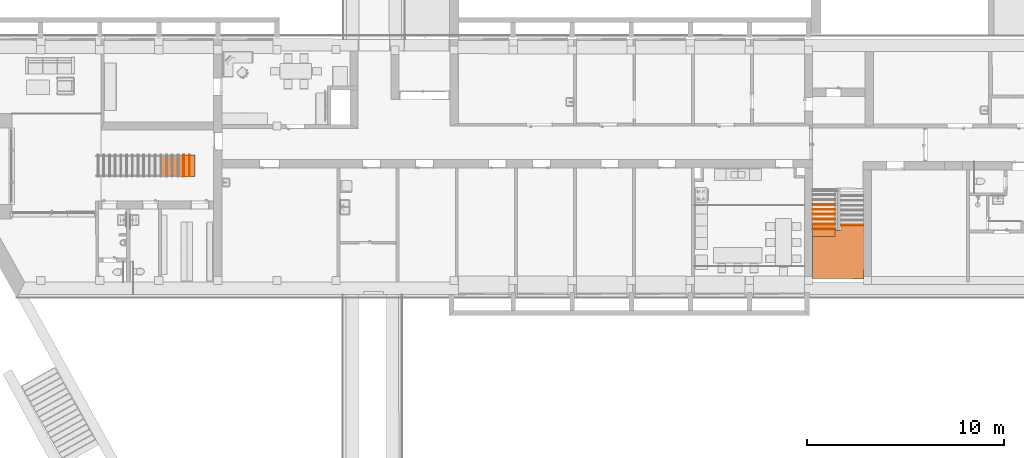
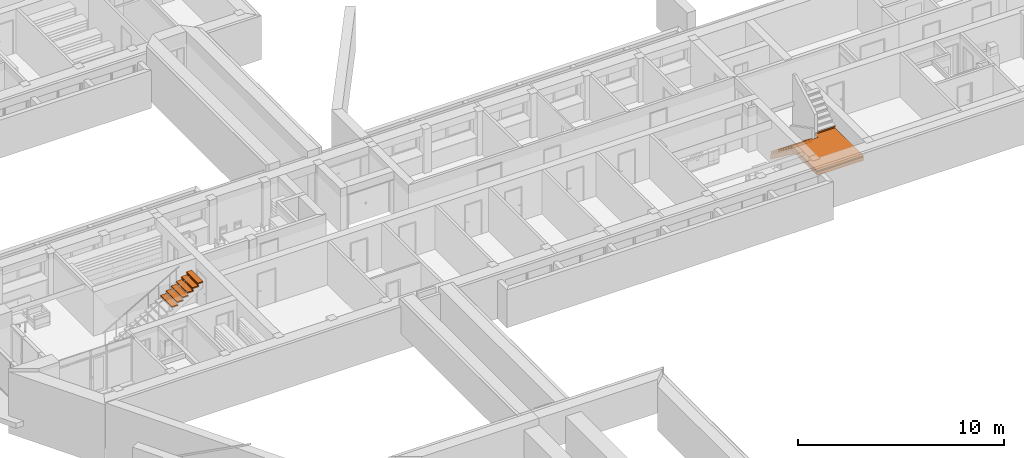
# One storey, part 120 of 127: 19 proxies, 2 elements without a shape of their own.
"""IFC2X3 building model written with IfcOpenShell, lengths in millimetres."""

from ifc_helpers import new_model, entity, si_unit, converted_unit, derived_unit, money_unit, direction, frame, origin_with_axes, place, context, subcontext, project, spatial, faceted_brep, material, type_object, element, aggregate, save


model = new_model("IFC2X3")

# Units and contexts
model_context = context("Model", 3, precision=1e-05, world=origin_with_axes(), true_north=direction((0.0, 1.0)))
body_context = subcontext(model_context, "Body", "Model", "MODEL_VIEW")
ifc_project = project(units=[si_unit("LENGTHUNIT", "METRE", prefix="MILLI"), si_unit("AREAUNIT", "SQUARE_METRE"), si_unit("VOLUMEUNIT", "CUBIC_METRE"), converted_unit("PLANEANGLEUNIT", "DEGREE", entity("IfcPlaneAngleMeasure", 0.0174532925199), si_unit("PLANEANGLEUNIT", "RADIAN"), dimensions=[0, 0, 0, 0, 0, 0, 0]), si_unit("SOLIDANGLEUNIT", "STERADIAN"), money_unit("EUR"), converted_unit("TIMEUNIT", "Year", entity("IfcTimeMeasure", 31556926.0), si_unit("TIMEUNIT", "SECOND"), dimensions=[0, 0, 1, 0, 0, 0, 0]), si_unit("MASSUNIT", "GRAM", prefix="KILO"), si_unit("THERMODYNAMICTEMPERATUREUNIT", "DEGREE_CELSIUS"), si_unit("LUMINOUSINTENSITYUNIT", "LUMEN"), si_unit("ENERGYUNIT", "JOULE", prefix="MEGA"), derived_unit("THERMALCONDUCTANCEUNIT", [(si_unit("POWERUNIT", "WATT"), 1), (si_unit("LENGTHUNIT", "METRE"), -1), (si_unit("THERMODYNAMICTEMPERATUREUNIT", "KELVIN"), -1)]), derived_unit("SPECIFICHEATCAPACITYUNIT", [(si_unit("ENERGYUNIT", "JOULE"), 1), (si_unit("MASSUNIT", "GRAM", prefix="KILO"), -1), (si_unit("THERMODYNAMICTEMPERATUREUNIT", "KELVIN"), -1)]), derived_unit("MASSDENSITYUNIT", [(si_unit("MASSUNIT", "GRAM", prefix="KILO"), 1), (si_unit("VOLUMEUNIT", "CUBIC_METRE"), -1)])], contexts=[model_context])

# Site, building, storey
site_placement = place(None, origin_with_axes())
site = spatial("IfcSite", under=ifc_project, at=site_placement, Name="Site", CompositionType="ELEMENT")
building_placement = place(site_placement, origin_with_axes())
building = spatial("IfcBuilding", under=site, at=building_placement, Name="Building", CompositionType="ELEMENT")
storey_placement = place(building_placement, origin_with_axes())
storey = spatial("IfcBuildingStorey", under=building, at=storey_placement, Name="1 KORRUS", CompositionType="ELEMENT", Elevation=0.0)

# Stair, proxies
stair_1_placement = place(storey_placement, frame((62353.9582893, 39096.002044, 0.0), z_axis=(0.0, 0.0, 1.0), x_axis=(1.0, 0.0, 0.0)))
stair_1 = element("IfcStair", 1, at=stair_1_placement, inside=storey, Name="STAIR - 003", ShapeType="NOTDEFINED")
ifc_material = material(Name="Betoon - Ol.Olev konstruktsioon")
building_element_proxy_type_1 = type_object("IfcBuildingElementProxyType", Name="BETOON TREPP", PredefinedType="NOTDEFINED")
proxy_1_placement = place(stair_1_placement, origin_with_axes())
proxy_1 = element("IfcBuildingElementProxy", 2, at=proxy_1_placement, type_object=building_element_proxy_type_1, material=ifc_material, Name="Betoon - Ol.Olev konstruktsioon;  Objekti nimi:", context=body_context, shape_type="Brep", body=[
    faceted_brep([(-1200.76813085, -1499.52918024, 1417.5), (-50.4565572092, -1499.52918024, 1417.5), (-50.4565393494, -1499.52919967, 1430.0), (-1200.76814148, -1499.52919967, 1430.0), (-1200.76813085, -1889.82135349, 1417.5), (-50.4565572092, -1889.82135349, 1417.5), (-50.4565572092, -1499.52918024, 1124.78086859), (-50.4565393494, -1457.86253301, 1093.53088316), (-50.4565393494, -1416.19586634, 1062.28088316), (-50.4565393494, -1374.52919967, 1031.03088316), (-50.4565393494, -1332.86253301, 999.780883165), (-50.4565393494, -1291.19586634, 968.530883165), (-50.4565393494, -1249.52919967, 937.280883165), (-50.4565393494, -1207.86253301, 906.030883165), (-50.4565393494, -1166.19586634, 874.780883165), (-50.4565393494, -1124.52919967, 843.530883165), (-50.4565393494, -1082.86253301, 812.280883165), (-50.4565393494, -1041.19586634, 781.030883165), (-50.4565393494, -999.529199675, 749.780883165), (-50.4565393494, -957.862533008, 718.530883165), (-50.4565393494, -916.195866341, 687.280883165), (-50.4565393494, -874.529199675, 656.030883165), (-50.4565393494, -832.862533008, 624.780883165), (-50.4565393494, -791.195866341, 593.530883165), (-50.4565393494, -749.529199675, 562.280883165), (-50.4565393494, -707.862533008, 531.030883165), (-50.4565393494, -666.195866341, 499.780883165), (-50.4565393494, -624.529199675, 468.530883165), (-50.4565393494, -582.862533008, 437.280883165), (-50.4565393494, -541.195866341, 406.030883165), (-50.4565393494, -499.529199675, 374.780883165), (-50.4565393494, -457.862533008, 343.530883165), (-50.4565393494, -416.195866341, 312.280883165), (-50.4565393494, -374.529199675, 281.030883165), (-50.4565393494, -332.862533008, 249.780883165), (-50.4565393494, -291.195866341, 218.530883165), (-50.4565393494, -249.529199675, 187.280883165), (-50.4565393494, -207.862533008, 156.030883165), (-50.4565393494, -166.195866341, 124.780883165), (-50.4565393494, -124.529199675, 93.530883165), (-50.4565393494, -82.8625330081, 62.280883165), (-50.4565393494, -41.1958663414, 31.030883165), (-50.4565393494, 0.470800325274, -0.219116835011), (-50.4565393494, 42.1374669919, -31.469116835), (-50.4565393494, 83.8041336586, -62.719116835), (-50.4565393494, 125.470800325, -93.969116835), (-50.4565393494, 167.137466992, -125.219116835), (-50.4565393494, 208.804133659, -156.469116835), (-50.4565393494, 250.470800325, -187.719116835), (-50.4565393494, 292.137466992, -218.969116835), (-50.4565393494, 333.804133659, -250.219116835), (-50.4565393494, 375.470800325, -281.469116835), (-50.4565393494, 417.137466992, -312.719116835), (-50.4565393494, 458.804133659, -343.969116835), (-50.4565393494, 500.470800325, -375.219116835), (-50.4565393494, 500.470800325, -70.0), (-50.4565393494, 426.845311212, -70.0), (-50.4565393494, 477.085784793, 117.5), (-50.4565393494, 176.845311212, 117.5), (-50.4565393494, 227.085784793, 305.0), (-50.4565393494, -73.1546887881, 305.0), (-50.4565393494, -22.9142152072, 492.5), (-50.4565393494, -323.154688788, 492.5), (-50.4565393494, -272.914215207, 680.0), (-50.4565393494, -573.154688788, 680.0), (-50.4565393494, -522.914215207, 867.5), (-50.4565393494, -823.154688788, 867.5), (-50.4565393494, -772.914215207, 1055.0), (-50.4565393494, -1073.15468879, 1055.0), (-50.4565393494, -1022.91421521, 1242.5), (-50.4565393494, -1323.15468879, 1242.5), (-50.4565393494, -1272.91421521, 1430.0), (-1200.6811053, -1272.91421521, 1430.0), (-1200.76813085, -1499.52918024, 1124.78086859), (-1200.70040119, -1323.15468879, 1242.5), (-1200.58508726, -1022.91421521, 1242.5), (-1200.6043824, -1073.15468879, 1055.0), (-1200.48907025, -772.914215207, 1055.0), (-1200.50836685, -823.154688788, 867.5), (-1200.39305189, -522.914215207, 867.5), (-1200.41234704, -573.154688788, 680.0), (-1200.29703414, -272.914215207, 680.0), (-1200.31632913, -323.154688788, 492.5), (-1200.20101699, -22.9142152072, 492.5), (-1200.22031313, -73.1546887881, 305.0), (-1200.10499946, 227.085784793, 305.0), (-1200.12429594, 176.845311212, 117.5), (-1200.00898156, 477.085784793, 117.5), (-1200.02827759, 426.845311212, -70.0), (-1200.0, 500.470800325, -70.0), (-1200.0, 500.470800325, -375.219116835), (-1200.01600295, 458.804133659, -343.969116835), (-1200.0320059, 417.137466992, -312.719116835), (-1200.04800884, 375.470800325, -281.469116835), (-1200.06401179, 333.804133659, -250.219116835), (-1200.08001474, 292.137466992, -218.969116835), (-1200.09601848, 250.470800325, -187.719116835), (-1200.11202143, 208.804133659, -156.469116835), (-1200.12802438, 167.137466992, -125.219116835), (-1200.14402732, 125.470800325, -93.969116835), (-1200.16003027, 83.8041336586, -62.719116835), (-1200.17603322, 42.1374669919, -31.469116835), (-1200.19203901, 0.470800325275, -0.219116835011), (-1200.20804196, -41.1958663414, 31.030883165), (-1200.22404491, -82.8625330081, 62.280883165), (-1200.24004785, -124.529199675, 93.530883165), (-1200.2560508, -166.195866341, 124.780883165), (-1200.27205375, -207.862533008, 156.030883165), (-1200.28805458, -249.529199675, 187.280883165), (-1200.30405753, -291.195866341, 218.530883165), (-1200.32006048, -332.862533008, 249.780883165), (-1200.33606342, -374.529199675, 281.030883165), (-1200.35206637, -416.195866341, 312.280883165), (-1200.36806932, -457.862533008, 343.530883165), (-1200.38407227, -499.529199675, 374.780883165), (-1200.40007369, -541.195866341, 406.030883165), (-1200.41607664, -582.862533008, 437.280883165), (-1200.43207958, -624.529199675, 468.530883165), (-1200.44808253, -666.195866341, 499.780883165), (-1200.46408548, -707.862533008, 531.030883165), (-1200.48008843, -749.529199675, 562.280883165), (-1200.49609137, -791.195866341, 593.530883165), (-1200.51209432, -832.862533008, 624.780883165), (-1200.52809727, -874.529199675, 656.030883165), (-1200.54410022, -916.195866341, 687.280883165), (-1200.56010316, -957.862533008, 718.530883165), (-1200.57611044, -999.529199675, 749.780883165), (-1200.59211339, -1041.19586634, 781.030883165), (-1200.60811634, -1082.86253301, 812.280883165), (-1200.62411928, -1124.52919967, 843.530883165), (-1200.64012223, -1166.19586634, 874.780883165), (-1200.65612518, -1207.86253301, 906.030883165), (-1200.67212813, -1249.52919967, 937.280883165), (-1200.68812674, -1291.19586634, 968.530883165), (-1200.70412969, -1332.86253301, 999.780883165), (-1200.72013264, -1374.52919967, 1031.03088316), (-1200.73613559, -1416.19586634, 1062.28088316), (-1200.75213853, -1457.86253301, 1093.53088316), (-625.596337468, -1416.19586634, 1062.28088316), (-625.580334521, -1332.86253301, 999.780883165), (-625.564333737, -1249.52919967, 937.280883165), (-625.54833079, -1166.19586634, 874.780883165), (-625.532327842, -1082.86253301, 812.280883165), (-625.516324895, -999.529199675, 749.780883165), (-625.500319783, -916.195866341, 687.280883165), (-625.484316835, -832.862533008, 624.780883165), (-625.468313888, -749.529199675, 562.280883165), (-625.45231094, -666.195866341, 499.780883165), (-625.436307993, -582.862533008, 437.280883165), (-625.420305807, -499.529199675, 374.780883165), (-625.40430286, -416.195866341, 312.280883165), (-625.388299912, -332.862533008, 249.780883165), (-625.372296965, -249.529199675, 187.280883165), (-625.356295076, -166.195866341, 124.780883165), (-625.340292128, -82.8625330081, 62.280883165), (-625.32428918, 0.470800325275, -0.219116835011), (-625.308284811, 83.8041336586, -62.719116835), (-625.292281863, 167.137466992, -125.219116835), (-625.276278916, 250.470800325, -187.719116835), (-625.26027557, 333.804133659, -250.219116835), (-625.244272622, 417.137466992, -312.719116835)], [[[0, 1, 2, 3]], [[1, 0, 4, 5]], [[6, 7, 8, 9, 10, 11, 12, 13, 14, 15, 16, 17, 18, 19, 20, 21, 22, 23, 24, 25, 26, 27, 28, 29, 30, 31, 32, 33, 34, 35, 36, 37, 38, 39, 40, 41, 42, 43, 44, 45, 46, 47, 48, 49, 50, 51, 52, 53, 54, 55, 56, 57, 58, 59, 60, 61, 62, 63, 64, 65, 66, 67, 68, 69, 70, 71, 2, 1, 5]], [[3, 2, 71, 72]], [[73, 0, 3, 72, 74, 75, 76, 77, 78, 79, 80, 81, 82, 83, 84, 85, 86, 87, 88, 89, 90, 91, 92, 93, 94, 95, 96, 97, 98, 99, 100, 101, 102, 103, 104, 105, 106, 107, 108, 109, 110, 111, 112, 113, 114, 115, 116, 117, 118, 119, 120, 121, 122, 123, 124, 125, 126, 127, 128, 129, 130, 131, 132, 133, 134, 135, 136, 137]], [[0, 73, 4]], [[73, 137, 138, 7, 6, 5, 4]], [[138, 8, 7]], [[138, 9, 8]], [[139, 10, 9]], [[139, 11, 10]], [[140, 12, 11]], [[140, 13, 12]], [[141, 14, 13]], [[141, 15, 14]], [[142, 16, 15]], [[142, 17, 16]], [[143, 18, 17]], [[143, 19, 18]], [[144, 20, 19]], [[144, 21, 20]], [[145, 22, 21]], [[145, 23, 22]], [[146, 24, 23]], [[146, 25, 24]], [[147, 26, 25]], [[147, 27, 26]], [[148, 28, 27]], [[148, 29, 28]], [[149, 30, 29]], [[149, 31, 30]], [[150, 32, 31]], [[150, 33, 32]], [[151, 34, 33]], [[151, 35, 34]], [[152, 36, 35]], [[152, 37, 36]], [[153, 38, 37]], [[153, 39, 38]], [[154, 40, 39]], [[154, 41, 40]], [[155, 42, 41]], [[155, 43, 42]], [[156, 44, 43]], [[156, 45, 44]], [[157, 46, 45]], [[157, 47, 46]], [[158, 48, 47]], [[158, 49, 48]], [[159, 50, 49]], [[159, 51, 50]], [[160, 52, 51]], [[160, 53, 52]], [[90, 54, 53, 160, 91]], [[55, 54, 90, 89]], [[89, 88, 56, 55]], [[56, 88, 87, 57]], [[58, 57, 87, 86]], [[58, 86, 85, 59]], [[60, 59, 85, 84]], [[60, 84, 83, 61]], [[62, 61, 83, 82]], [[62, 82, 81, 63]], [[64, 63, 81, 80]], [[64, 80, 79, 65]], [[66, 65, 79, 78]], [[66, 78, 77, 67]], [[68, 67, 77, 76]], [[68, 76, 75, 69]], [[70, 69, 75, 74]], [[70, 74, 72, 71]], [[160, 92, 91]], [[160, 93, 92]], [[159, 94, 93]], [[159, 95, 94]], [[158, 96, 95]], [[158, 97, 96]], [[157, 98, 97]], [[157, 99, 98]], [[156, 100, 99]], [[156, 101, 100]], [[155, 102, 101]], [[155, 103, 102]], [[154, 104, 103]], [[154, 105, 104]], [[153, 106, 105]], [[153, 107, 106]], [[152, 108, 107]], [[152, 109, 108]], [[151, 110, 109]], [[151, 111, 110]], [[150, 112, 111]], [[150, 113, 112]], [[149, 114, 113]], [[149, 115, 114]], [[148, 116, 115]], [[148, 117, 116]], [[147, 118, 117]], [[147, 119, 118]], [[146, 120, 119]], [[146, 121, 120]], [[145, 122, 121]], [[145, 123, 122]], [[144, 124, 123]], [[144, 125, 124]], [[143, 126, 125]], [[143, 127, 126]], [[142, 128, 127]], [[142, 129, 128]], [[141, 130, 129]], [[141, 131, 130]], [[140, 132, 131]], [[140, 133, 132]], [[139, 134, 133]], [[139, 135, 134]], [[138, 136, 135]], [[138, 137, 136]], [[135, 139, 9, 138]], [[133, 140, 11, 139]], [[131, 141, 13, 140]], [[142, 15, 141, 129]], [[143, 17, 142, 127]], [[125, 144, 19, 143]], [[145, 21, 144, 123]], [[146, 23, 145, 121]], [[119, 147, 25, 146]], [[117, 148, 27, 147]], [[149, 29, 148, 115]], [[150, 31, 149, 113]], [[151, 33, 150, 111]], [[152, 35, 151, 109]], [[153, 37, 152, 107]], [[105, 154, 39, 153]], [[155, 41, 154, 103]], [[101, 156, 43, 155]], [[157, 45, 156, 99]], [[97, 158, 47, 157]], [[95, 159, 49, 158]], [[160, 51, 159, 93]]]),
])
building_element_proxy_type_2 = type_object("IfcBuildingElementProxyType", Name="SF RISER - 054", PredefinedType="NOTDEFINED")
proxy_2_placement = place(stair_1_placement, frame((-600.0, -249.529199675, 690.0), z_axis=(0.0, 0.0, 1.0), x_axis=(-1.0, 0.0, 0.0)))
proxy_2 = element("IfcBuildingElementProxy", 3, at=proxy_2_placement, type_object=building_element_proxy_type_2, material=ifc_material, Name=";  Objekti nimi: Riser 22", context=body_context, shape_type="Brep", body=[
    faceted_brep([(600.288053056, 0.0, 0.0), (600.292029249, 10.3527618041, 0.0), (-549.543460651, 10.3527618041, 0.0), (-549.543460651, 0.0, 0.0), (600.301174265, 34.163522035, -127.5), (600.305150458, 44.5162838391, -127.5), (-549.543460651, 44.5162838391, -127.5), (-549.543460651, 34.163522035, -127.5)], [[[0, 1, 2, 3]], [[0, 4, 5, 1]], [[1, 5, 6, 2]], [[3, 2, 6, 7]], [[4, 0, 3, 7]], [[5, 4, 7, 6]]]),
])
building_element_proxy_type_3 = type_object("IfcBuildingElementProxyType", Name="SF RISER - 055", PredefinedType="NOTDEFINED")
proxy_3_placement = place(stair_1_placement, frame((-600.0, -499.529199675, 877.5), z_axis=(0.0, 0.0, 1.0), x_axis=(-1.0, 0.0, 0.0)))
proxy_3 = element("IfcBuildingElementProxy", 4, at=proxy_3_placement, type_object=building_element_proxy_type_3, material=ifc_material, Name=";  Objekti nimi: Riser 22", context=body_context, shape_type="Brep", body=[
    faceted_brep([(600.384070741, 0.0, 0.0), (600.388046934, 10.3527618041, 0.0), (-549.543460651, 10.3527618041, 0.0), (-549.543460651, 0.0, 0.0), (600.39719195, 34.163522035, -127.5), (600.401168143, 44.5162838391, -127.5), (-549.543460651, 44.5162838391, -127.5), (-549.543460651, 34.163522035, -127.5)], [[[0, 1, 2, 3]], [[0, 4, 5, 1]], [[1, 5, 6, 2]], [[3, 2, 6, 7]], [[4, 0, 3, 7]], [[5, 4, 7, 6]]]),
])
building_element_proxy_type_4 = type_object("IfcBuildingElementProxyType", Name="SL STRUCTURE - 004", PredefinedType="NOTDEFINED")
proxy_4_placement = place(stair_1_placement, origin_with_axes())
proxy_4 = element("IfcBuildingElementProxy", 5, at=proxy_4_placement, type_object=building_element_proxy_type_4, material=ifc_material, Name="Betoon - Ol.Olev konstruktsioon;  Objekti nimi:", context=body_context, shape_type="Brep", body=[
    faceted_brep([(1383.39448204, -1338.24088058, 1417.5), (1383.39448204, -1338.24088058, 1617.5), (1383.39448204, -4040.306204, 1617.5), (1383.39448204, -4040.306204, 1417.5), (257.639763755, -1338.24088058, 1617.5), (257.639763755, -1338.24088058, 1417.5), (257.639763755, -1587.65894723, 1617.5), (-50.4565572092, -1583.35388168, 1617.5), (-50.4565454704, -1522.91421521, 1617.5), (-1200.77710574, -1522.91421521, 1617.5), (-1201.7425916, -4036.69233002, 1617.5), (-1201.7425916, -4036.69233002, 1417.5), (-1200.76813085, -1499.52918024, 1417.5), (-50.4565572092, -1499.52918024, 1417.5), (-50.4565572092, -1583.35388168, 1417.5), (257.639763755, -1587.65894723, 1417.5), (-50.4565449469, -1499.52918024, 1430.0), (-50.4565465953, -1573.15468708, 1430.0), (-1200.79639961, -1573.15468708, 1430.0), (-1200.76812518, -1499.52918024, 1430.0)], [[[0, 1, 2, 3]], [[4, 1, 0, 5]], [[1, 4, 6, 7, 8, 9, 10, 2]], [[2, 10, 11, 3]], [[5, 0, 3, 11, 12, 13, 14, 15]], [[4, 5, 15, 6]], [[7, 6, 15, 14]], [[16, 17, 8, 7, 14, 13]], [[18, 9, 8, 17]], [[9, 18, 19, 12, 11, 10]], [[12, 19, 16, 13]], [[18, 17, 16, 19]]]),
])
building_element_proxy_type_5 = type_object("IfcBuildingElementProxyType", Name="SF RISER - 056", PredefinedType="NOTDEFINED")
proxy_5_placement = place(stair_1_placement, frame((-600.0, -749.529199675, 1065.0), z_axis=(0.0, 0.0, 1.0), x_axis=(-1.0, 0.0, 0.0)))
proxy_5 = element("IfcBuildingElementProxy", 6, at=proxy_5_placement, type_object=building_element_proxy_type_5, material=ifc_material, Name=";  Objekti nimi: Riser 22", context=body_context, shape_type="Brep", body=[
    faceted_brep([(600.480088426, 0.0, 0.0), (600.484064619, 10.3527618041, 0.0), (-549.543460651, 10.3527618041, 0.0), (-549.543460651, 0.0, 0.0), (600.493209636, 34.163522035, -127.5), (600.497185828, 44.5162838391, -127.5), (-549.543460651, 44.5162838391, -127.5), (-549.543460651, 34.163522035, -127.5)], [[[0, 1, 2, 3]], [[0, 4, 5, 1]], [[1, 5, 6, 2]], [[3, 2, 6, 7]], [[4, 0, 3, 7]], [[5, 4, 7, 6]]]),
])
building_element_proxy_type_6 = type_object("IfcBuildingElementProxyType", Name="SF RISER - 057", PredefinedType="NOTDEFINED")
proxy_6_placement = place(stair_1_placement, frame((-600.0, -999.529199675, 1252.5), z_axis=(0.0, 0.0, 1.0), x_axis=(-1.0, 0.0, 0.0)))
proxy_6 = element("IfcBuildingElementProxy", 7, at=proxy_6_placement, type_object=building_element_proxy_type_6, material=ifc_material, Name=";  Objekti nimi: Riser 22", context=body_context, shape_type="Brep", body=[
    faceted_brep([(600.576106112, 0.0, 0.0), (600.580082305, 10.3527618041, 0.0), (-549.543460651, 10.3527618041, 0.0), (-549.543460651, 0.0, 0.0), (600.589227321, 34.163522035, -127.5), (600.593203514, 44.5162838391, -127.5), (-549.543460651, 44.5162838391, -127.5), (-549.543460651, 34.163522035, -127.5)], [[[0, 1, 2, 3]], [[0, 4, 5, 1]], [[1, 5, 6, 2]], [[3, 2, 6, 7]], [[4, 0, 3, 7]], [[5, 4, 7, 6]]]),
])
building_element_proxy_type_7 = type_object("IfcBuildingElementProxyType", Name="SF RISER - 058", PredefinedType="NOTDEFINED")
proxy_7_placement = place(stair_1_placement, frame((-600.0, -1249.52919967, 1440.0), z_axis=(0.0, 0.0, 1.0), x_axis=(-1.0, 0.0, 0.0)))
proxy_7 = element("IfcBuildingElementProxy", 8, at=proxy_7_placement, type_object=building_element_proxy_type_7, material=ifc_material, Name=";  Objekti nimi: Riser 22", context=body_context, shape_type="Brep", body=[
    faceted_brep([(600.672123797, 0.0, 0.0), (600.67609999, 10.3527618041, 0.0), (-549.543460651, 10.3527618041, 0.0), (-549.543460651, 0.0, 0.0), (600.685245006, 34.163522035, -127.5), (600.689221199, 44.5162838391, -127.5), (-549.543460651, 44.5162838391, -127.5), (-549.543460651, 34.163522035, -127.5)], [[[0, 1, 2, 3]], [[0, 4, 5, 1]], [[1, 5, 6, 2]], [[3, 2, 6, 7]], [[4, 0, 3, 7]], [[5, 4, 7, 6]]]),
])
building_element_proxy_type_8 = type_object("IfcBuildingElementProxyType", Name="SL RISER - 004", PredefinedType="NOTDEFINED")
proxy_8_placement = place(stair_1_placement, frame((-600.0, -1499.52919967, 1627.5), z_axis=(0.0, 0.0, 1.0), x_axis=(-1.0, 0.0, 0.0)))
proxy_8 = element("IfcBuildingElementProxy", 9, at=proxy_8_placement, type_object=building_element_proxy_type_8, material=ifc_material, Name=";  Objekti nimi: Riser 22", context=body_context, shape_type="Brep", body=[
    faceted_brep([(600.768141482, 0.0, 0.0), (600.772117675, 10.3527618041, 0.0), (-549.543460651, 10.3527618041, 0.0), (-549.543460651, 0.0, 0.0), (600.781262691, 34.163522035, -127.5), (600.785238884, 44.5162838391, -127.5), (-549.543460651, 44.5162838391, -127.5), (-549.543460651, 34.163522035, -127.5)], [[[0, 1, 2, 3]], [[0, 4, 5, 1]], [[1, 5, 6, 2]], [[3, 2, 6, 7]], [[4, 0, 3, 7]], [[5, 4, 7, 6]]]),
])
building_element_proxy_type_9 = type_object("IfcBuildingElementProxyType", Name="SF RISER - 059", PredefinedType="NOTDEFINED")
proxy_9_placement = place(stair_1_placement, frame((857.639750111, -1338.24086166, 1815.0), z_axis=(0.0, 0.0, 1.0), x_axis=(1.0, 0.0, 0.0)))
proxy_9 = element("IfcBuildingElementProxy", 10, at=proxy_9_placement, type_object=building_element_proxy_type_9, material=ifc_material, Name=";  Objekti nimi: Riser 22", context=body_context, shape_type="Brep", body=[
    faceted_brep([(525.754745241, 0.0, 0.0), (525.754745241, 10.3527618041, 0.0), (-600.0, 10.3527618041, 0.0), (-600.0, 0.0, 0.0), (525.754745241, 34.163522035, -127.5), (525.754745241, 44.5162838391, -127.5), (-600.0, 44.5162838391, -127.5), (-600.0, 34.163522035, -127.5)], [[[0, 1, 2, 3]], [[0, 4, 5, 1]], [[1, 5, 6, 2]], [[3, 2, 6, 7]], [[4, 0, 3, 7]], [[5, 4, 7, 6]]]),
])
building_element_proxy_type_10 = type_object("IfcBuildingElementProxyType", Name="SF TREAD - 058", PredefinedType="NOTDEFINED")
proxy_10_placement = place(stair_1_placement, frame((-600.0, -1249.52919967, 1500.0), z_axis=(0.0, 0.0, 1.0), x_axis=(-1.0, 0.0, 0.0)))
proxy_10 = element("IfcBuildingElementProxy", 11, at=proxy_10_placement, type_object=building_element_proxy_type_10, material=ifc_material, Name=";  Objekti nimi: Tread 22", context=body_context, shape_type="Brep", body=[
    faceted_brep([(600.768141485, 250.000006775, -70.0), (600.672123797, 0.0, -70.0), (-549.543460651, 0.0, -70.0), (-549.543460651, 310.593235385, -70.0), (600.768141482, 310.593235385, -70.0), (560.687483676, 40.0, -70.0), (560.776047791, 270.593235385, -70.0), (-509.543460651, 270.593235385, -70.0), (-509.543460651, 40.0, -70.0), (600.768141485, 250.000006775, 0.0), (600.672123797, 0.0, 0.0), (-549.543460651, 0.0, 0.0), (-549.543460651, 294.516283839, 0.0), (-549.543460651, 310.593235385, -60.0), (600.768141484, 310.593235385, -60.0), (600.768141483, 294.516283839, 0.0), (560.687483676, 40.0, -60.0), (560.776047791, 270.593235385, -60.0), (-509.543460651, 270.593235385, -60.0), (-509.543460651, 40.0, -60.0)], [[[0, 1, 2, 3, 4], [5, 6, 7, 8]], [[9, 10, 1, 0]], [[10, 11, 2, 1]], [[11, 12, 13, 3, 2]], [[3, 13, 14, 4]], [[15, 9, 0, 4, 14]], [[6, 5, 16, 17]], [[7, 6, 17, 18]], [[8, 7, 18, 19]], [[5, 8, 19, 16]], [[15, 12, 11, 10, 9]], [[12, 15, 14, 13]], [[19, 18, 17, 16]]]),
])
building_element_proxy_type_11 = type_object("IfcBuildingElementProxyType", Name="SL TREAD - 004", PredefinedType="NOTDEFINED")
proxy_11_placement = place(stair_1_placement, frame((-600.0, -1499.52919967, 1687.5), z_axis=(0.0, 0.0, 1.0), x_axis=(-1.0, 0.0, 0.0)))
proxy_11 = element("IfcBuildingElementProxy", 12, at=proxy_11_placement, type_object=building_element_proxy_type_11, material=ifc_material, Name=";  Objekti nimi: Tread 22", context=body_context, shape_type="Brep", body=[
    faceted_brep([(-549.543460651, 83.8246704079, -70.0), (-857.639750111, 88.1297409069, -70.0), (-857.639750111, -221.8815734, -70.0), (-1983.39449535, -221.8815734, -70.0), (-1983.39449535, 2540.77700432, -70.0), (601.742591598, 2537.16311045, -70.0), (600.768141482, 0.0, -70.0), (-549.543460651, 0.0, -70.0), (560.783501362, 40.0, -70.0), (561.727247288, 2497.21901084, -70.0), (-1943.39449535, 2500.72104722, -70.0), (-1943.39449535, -181.8815734, -70.0), (-897.639750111, -181.8815734, -70.0), (-897.639750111, 128.692571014, -70.0), (-509.543460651, 123.269649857, -70.0), (-509.543460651, 40.0, -70.0), (-549.543460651, 83.8246704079, 0.0), (-857.639750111, 88.1297409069, 0.0), (-857.639750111, -205.804621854, 0.0), (-857.639750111, -221.8815734, -60.0), (-1983.39449535, -221.8815734, -60.0), (-1983.39449535, -205.804621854, 0.0), (-1983.39449535, 2540.77700432, 0.0), (601.742591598, 2537.16311045, 0.0), (600.768141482, 0.0, 0.0), (-549.543460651, 0.0, 0.0), (560.783501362, 40.0, -60.0), (561.727247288, 2497.21901084, -60.0), (-1943.39449535, 2500.72104722, -60.0), (-1943.39449535, -181.8815734, -60.0), (-897.639750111, -181.8815734, -60.0), (-897.639750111, 128.692571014, -60.0), (-509.543460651, 123.269649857, -60.0), (-509.543460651, 40.0, -60.0)], [[[0, 1, 2, 3, 4, 5, 6, 7], [8, 9, 10, 11, 12, 13, 14, 15]], [[16, 17, 1, 0]], [[17, 18, 19, 2, 1]], [[2, 19, 20, 3]], [[21, 22, 4, 3, 20]], [[22, 23, 5, 4]], [[23, 24, 6, 5]], [[24, 25, 7, 6]], [[25, 16, 0, 7]], [[9, 8, 26, 27]], [[10, 9, 27, 28]], [[11, 10, 28, 29]], [[12, 11, 29, 30]], [[13, 12, 30, 31]], [[14, 13, 31, 32]], [[15, 14, 32, 33]], [[8, 15, 33, 26]], [[23, 22, 21, 18, 17, 16, 25, 24]], [[18, 21, 20, 19]], [[33, 32, 31, 30, 29, 28, 27, 26]]]),
])
aggregate(stair_1, [proxy_1, proxy_4, proxy_2, proxy_3, proxy_5, proxy_6, proxy_7, proxy_8, proxy_9, proxy_10, proxy_11])

stair_2_placement = place(storey_placement, frame((24844.9039309, 41346.7944087, 0.0), z_axis=(0.0, 0.0, 1.0), x_axis=(1.0, 0.0, 0.0)))
stair_2 = element("IfcStair", 13, at=stair_2_placement, inside=storey, Name="STAIR - 001", ShapeType="NOTDEFINED")
building_element_proxy_type_12 = type_object("IfcBuildingElementProxyType", Name="SF RISER - 020", PredefinedType="NOTDEFINED")
proxy_12_placement = place(stair_2_placement, frame((4350.43712619, -546.531619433, 2763.52941176), z_axis=(0.0, 0.0, 1.0), x_axis=(0.000797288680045, -0.999999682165, 0.0)))
proxy_12 = element("IfcBuildingElementProxy", 14, at=proxy_12_placement, type_object=building_element_proxy_type_12, material=ifc_material, Name=";  Objekti nimi: Riser 22", context=body_context, shape_type="Brep", body=[
    faceted_brep([(550.0, 0.0, 0.0), (550.0, 10.3527618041, 0.0), (-550.0, 10.3527618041, 0.0), (-550.0, 0.0, 0.0), (550.0, 31.2082000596, -116.470588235), (550.0, 41.5609618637, -116.470588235), (-550.0, 41.5609618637, -116.470588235), (-550.0, 31.2082000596, -116.470588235)], [[[0, 1, 2, 3]], [[0, 4, 5, 1]], [[1, 5, 6, 2]], [[3, 2, 6, 7]], [[4, 0, 3, 7]], [[5, 4, 7, 6]]]),
])
proxy_13_placement = place(stair_2_placement, frame((4640.43703402, -546.300405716, 2940.0), z_axis=(0.0, 0.0, 1.0), x_axis=(0.000797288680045, -0.999999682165, 0.0)))
proxy_13 = element("IfcBuildingElementProxy", 15, at=proxy_13_placement, type_object=building_element_proxy_type_12, material=ifc_material, Name=";  Objekti nimi: Riser 22", context=body_context, shape_type="Brep", body=[
    faceted_brep([(550.0, 0.0, 0.0), (550.0, 10.3527618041, 0.0), (-550.0, 10.3527618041, 0.0), (-550.0, 0.0, 0.0), (550.0, 31.2082000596, -116.470588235), (550.0, 41.5609618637, -116.470588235), (-550.0, 41.5609618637, -116.470588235), (-550.0, 31.2082000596, -116.470588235)], [[[0, 1, 2, 3]], [[0, 4, 5, 1]], [[1, 5, 6, 2]], [[3, 2, 6, 7]], [[4, 0, 3, 7]], [[5, 4, 7, 6]]]),
])
building_element_proxy_type_13 = type_object("IfcBuildingElementProxyType", Name="SF TREAD - 020", PredefinedType="NOTDEFINED")
proxy_14_placement = place(stair_2_placement, frame((3190.43749488, -547.456474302, 2117.64705882), z_axis=(0.0, 0.0, 1.0), x_axis=(0.000797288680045, -0.999999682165, 0.0)))
proxy_14 = element("IfcBuildingElementProxy", 16, at=proxy_14_placement, type_object=building_element_proxy_type_13, material=ifc_material, Name=";  Objekti nimi: Tread 22", context=body_context, shape_type="Brep", body=[
    faceted_brep([(-550.0, 347.637908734, -70.0), (550.0, 347.637914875, -70.0), (550.0, 0.0, -70.0), (-550.0, 0.0, -70.0), (510.0, 40.0, -70.0), (510.0, 307.637914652, -70.0), (-510.0, 307.637908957, -70.0), (-510.0, 40.0, -70.0), (-550.00000018, 347.637908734, -60.0), (550.0, 347.637908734, -60.0), (550.0, 331.560957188, 0.0), (550.0, 0.0, 0.0), (-550.0, 0.0, 0.0), (-550.0, 331.560957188, 0.0), (510.0, 40.0, -60.0), (510.0, 307.637914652, -60.0), (-510.0, 307.637908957, -60.0), (-510.0, 40.0, -60.0)], [[[0, 1, 2, 3], [4, 5, 6, 7]], [[0, 8, 9, 1]], [[10, 11, 2, 1, 9]], [[11, 12, 3, 2]], [[12, 13, 8, 0, 3]], [[5, 4, 14, 15]], [[6, 5, 15, 16]], [[7, 6, 16, 17]], [[4, 7, 17, 14]], [[13, 10, 9, 8]], [[10, 13, 12, 11]], [[17, 16, 15, 14]]]),
])
proxy_15_placement = place(stair_2_placement, frame((3480.43740271, -547.225260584, 2294.11764706), z_axis=(0.0, 0.0, 1.0), x_axis=(0.000797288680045, -0.999999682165, 0.0)))
proxy_15 = element("IfcBuildingElementProxy", 17, at=proxy_15_placement, type_object=building_element_proxy_type_13, material=ifc_material, Name=";  Objekti nimi: Tread 22", context=body_context, shape_type="Brep", body=[
    faceted_brep([(-550.0, 347.637912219, -70.0), (550.0, 347.637918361, -70.0), (550.0, 0.0, -70.0), (-550.0, 0.0, -70.0), (510.0, 40.0, -70.0), (510.0, 307.637918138, -70.0), (-510.0, 307.637912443, -70.0), (-510.0, 40.0, -70.0), (-550.00000018, 347.637912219, -60.0), (550.0, 347.637912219, -60.0), (550.0, 331.560960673, 0.0), (550.0, 0.0, 0.0), (-550.0, 0.0, 0.0), (-550.0, 331.560960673, 0.0), (510.0, 40.0, -60.0), (510.0, 307.637918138, -60.0), (-510.0, 307.637912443, -60.0), (-510.0, 40.0, -60.0)], [[[0, 1, 2, 3], [4, 5, 6, 7]], [[0, 8, 9, 1]], [[10, 11, 2, 1, 9]], [[11, 12, 3, 2]], [[12, 13, 8, 0, 3]], [[5, 4, 14, 15]], [[6, 5, 15, 16]], [[7, 6, 16, 17]], [[4, 7, 17, 14]], [[13, 10, 9, 8]], [[10, 13, 12, 11]], [[17, 16, 15, 14]]]),
])
proxy_16_placement = place(stair_2_placement, frame((3770.43731054, -546.994046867, 2470.58823529), z_axis=(0.0, 0.0, 1.0), x_axis=(0.000797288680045, -0.999999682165, 0.0)))
proxy_16 = element("IfcBuildingElementProxy", 18, at=proxy_16_placement, type_object=building_element_proxy_type_13, material=ifc_material, Name=";  Objekti nimi: Tread 22", context=body_context, shape_type="Brep", body=[
    faceted_brep([(-550.0, 347.637911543, -70.0), (550.0, 347.637917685, -70.0), (550.0, 0.0, -70.0), (-550.0, 0.0, -70.0), (510.0, 40.0, -70.0), (510.0, 307.637917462, -70.0), (-510.0, 307.637911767, -70.0), (-510.0, 40.0, -70.0), (-550.00000018, 347.637911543, -60.0), (550.0, 347.637911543, -60.0), (550.0, 331.560959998, 0.0), (550.0, 0.0, 0.0), (-550.0, 0.0, 0.0), (-550.0, 331.560959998, 0.0), (510.0, 40.0, -60.0), (510.0, 307.637917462, -60.0), (-510.0, 307.637911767, -60.0), (-510.0, 40.0, -60.0)], [[[0, 1, 2, 3], [4, 5, 6, 7]], [[0, 8, 9, 1]], [[10, 11, 2, 1, 9]], [[11, 12, 3, 2]], [[12, 13, 8, 0, 3]], [[5, 4, 14, 15]], [[6, 5, 15, 16]], [[7, 6, 16, 17]], [[4, 7, 17, 14]], [[13, 10, 9, 8]], [[10, 13, 12, 11]], [[17, 16, 15, 14]]]),
])
proxy_17_placement = place(stair_2_placement, frame((4060.43721837, -546.76283315, 2647.05882353), z_axis=(0.0, 0.0, 1.0), x_axis=(0.000797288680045, -0.999999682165, 0.0)))
proxy_17 = element("IfcBuildingElementProxy", 19, at=proxy_17_placement, type_object=building_element_proxy_type_13, material=ifc_material, Name=";  Objekti nimi: Tread 22", context=body_context, shape_type="Brep", body=[
    faceted_brep([(-550.0, 347.637910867, -70.0), (550.0, 347.637917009, -70.0), (550.0, 0.0, -70.0), (-550.0, 0.0, -70.0), (510.0, 40.0, -70.0), (510.0, 307.637916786, -70.0), (-510.0, 307.637911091, -70.0), (-510.0, 40.0, -70.0), (-550.00000018, 347.637910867, -60.0), (550.0, 347.637910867, -60.0), (550.0, 331.560959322, 0.0), (550.0, 0.0, 0.0), (-550.0, 0.0, 0.0), (-550.0, 331.560959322, 0.0), (510.0, 40.0, -60.0), (510.0, 307.637916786, -60.0), (-510.0, 307.637911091, -60.0), (-510.0, 40.0, -60.0)], [[[0, 1, 2, 3], [4, 5, 6, 7]], [[0, 8, 9, 1]], [[10, 11, 2, 1, 9]], [[11, 12, 3, 2]], [[12, 13, 8, 0, 3]], [[5, 4, 14, 15]], [[6, 5, 15, 16]], [[7, 6, 16, 17]], [[4, 7, 17, 14]], [[13, 10, 9, 8]], [[10, 13, 12, 11]], [[17, 16, 15, 14]]]),
])
proxy_18_placement = place(stair_2_placement, frame((4350.43712619, -546.531619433, 2823.52941176), z_axis=(0.0, 0.0, 1.0), x_axis=(0.000797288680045, -0.999999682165, 0.0)))
proxy_18 = element("IfcBuildingElementProxy", 20, at=proxy_18_placement, type_object=building_element_proxy_type_13, material=ifc_material, Name=";  Objekti nimi: Tread 22", context=body_context, shape_type="Brep", body=[
    faceted_brep([(-550.0, 347.637910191, -70.0), (550.0, 347.637916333, -70.0), (550.0, 0.0, -70.0), (-550.0, 0.0, -70.0), (510.0, 40.0, -70.0), (510.0, 307.63791611, -70.0), (-510.0, 307.637910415, -70.0), (-510.0, 40.0, -70.0), (-550.00000018, 347.637910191, -60.0), (550.0, 347.637910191, -60.0), (550.0, 331.560958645, 0.0), (550.0, 0.0, 0.0), (-550.0, 0.0, 0.0), (-550.0, 331.560958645, 0.0), (510.0, 40.0, -60.0), (510.0, 307.63791611, -60.0), (-510.0, 307.637910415, -60.0), (-510.0, 40.0, -60.0)], [[[0, 1, 2, 3], [4, 5, 6, 7]], [[0, 8, 9, 1]], [[10, 11, 2, 1, 9]], [[11, 12, 3, 2]], [[12, 13, 8, 0, 3]], [[5, 4, 14, 15]], [[6, 5, 15, 16]], [[7, 6, 16, 17]], [[4, 7, 17, 14]], [[13, 10, 9, 8]], [[10, 13, 12, 11]], [[17, 16, 15, 14]]]),
])
proxy_19_placement = place(stair_2_placement, frame((4640.43703402, -546.300405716, 3000.0), z_axis=(0.0, 0.0, 1.0), x_axis=(0.000797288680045, -0.999999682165, 0.0)))
proxy_19 = element("IfcBuildingElementProxy", 21, at=proxy_19_placement, type_object=building_element_proxy_type_13, material=ifc_material, Name=";  Objekti nimi: Tread 22", context=body_context, shape_type="Brep", body=[
    faceted_brep([(550.0, 0.0, -70.0), (-550.0, 0.0, -70.0), (-550.0, 290.0, -70.0), (550.0, 290.0, -70.0), (510.0, 40.0, -70.0), (510.0, 250.0, -70.0), (-510.0, 250.0, -70.0), (-510.0, 40.0, -70.0), (550.0, 0.0, 0.0), (-550.0, 0.0, 0.0), (-550.0, 290.0, 0.0), (550.0, 290.0, 0.0), (510.0, 40.0, -60.0), (510.0, 250.0, -60.0), (-510.0, 250.0, -60.0), (-510.0, 40.0, -60.0)], [[[0, 1, 2, 3], [4, 5, 6, 7]], [[8, 9, 1, 0]], [[9, 10, 2, 1]], [[10, 11, 3, 2]], [[11, 8, 0, 3]], [[5, 4, 12, 13]], [[6, 5, 13, 14]], [[7, 6, 14, 15]], [[4, 7, 15, 12]], [[11, 10, 9, 8]], [[15, 14, 13, 12]]]),
])
aggregate(stair_2, [proxy_12, proxy_13, proxy_14, proxy_15, proxy_16, proxy_17, proxy_18, proxy_19])

save(model, "model.ifc")
